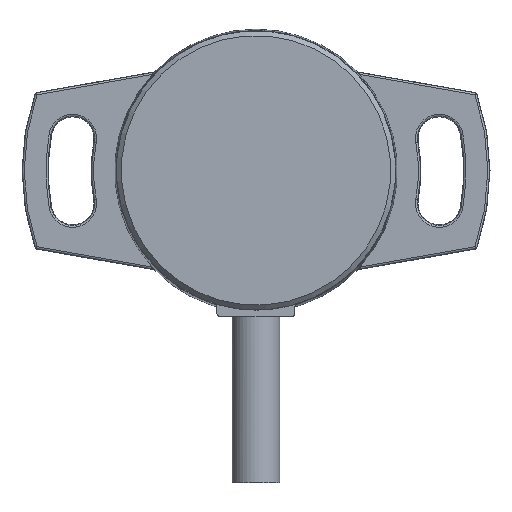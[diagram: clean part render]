
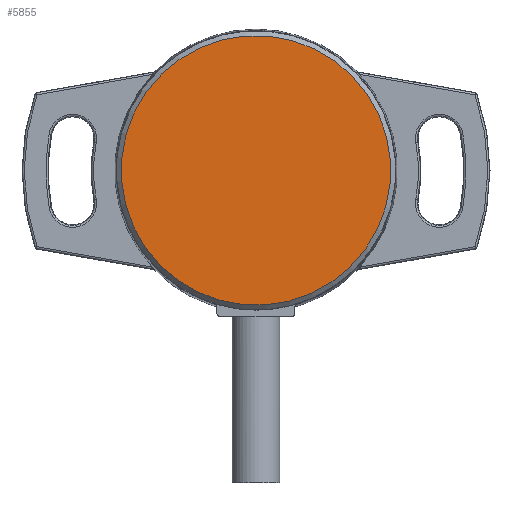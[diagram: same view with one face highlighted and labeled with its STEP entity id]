
A CAD part, top view. The second image highlights one B-rep face of the part: STEP entity #5855.
In plain terms, the highlighted planar face has unit normal (0, 0, 1).
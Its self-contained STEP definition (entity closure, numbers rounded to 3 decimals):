
#765=ORIENTED_EDGE('',*,*,#2005,.T.);
#2005=EDGE_CURVE('',#2625,#2625,#3003,.T.);
#2625=VERTEX_POINT('',#7827);
#3003=CIRCLE('',#6133,13.825);
#3262=EDGE_LOOP('',(#765));
#3567=FACE_BOUND('',#3262,.T.);
#3873=PLANE('',#6132);
#5855=ADVANCED_FACE('',(#3567),#3873,.T.);
#6132=AXIS2_PLACEMENT_3D('',#7825,#6633,#6634);
#6133=AXIS2_PLACEMENT_3D('',#7826,#6635,#6636);
#6633=DIRECTION('',(0.,0.,1.));
#6634=DIRECTION('',(0.911,0.412,0.));
#6635=DIRECTION('',(0.,0.,1.));
#6636=DIRECTION('',(0.911,0.412,0.));
#7825=CARTESIAN_POINT('',(0.,0.,21.5));
#7826=CARTESIAN_POINT('',(0.,0.,21.5));
#7827=CARTESIAN_POINT('',(12.599,5.693,21.5));
